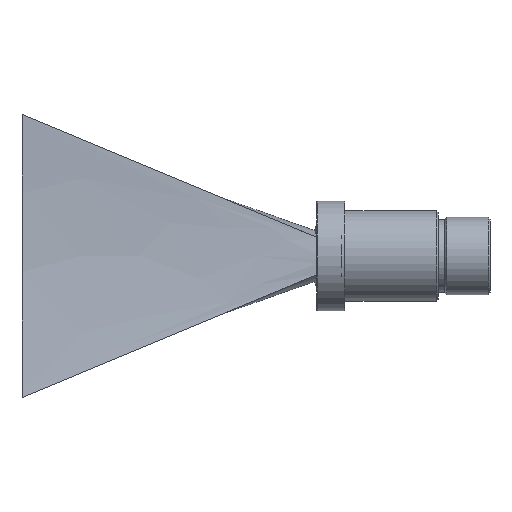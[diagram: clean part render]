
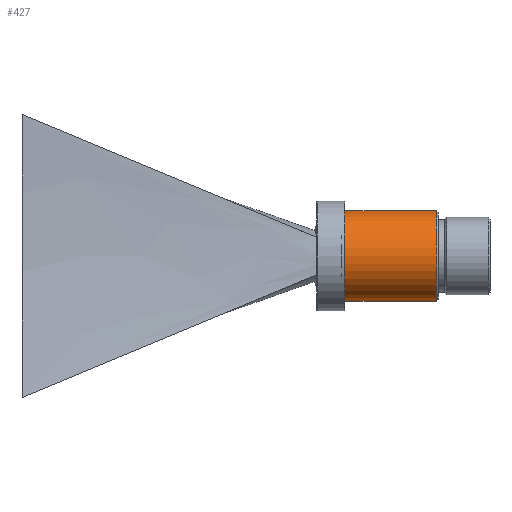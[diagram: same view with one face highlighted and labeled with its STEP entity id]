
A CAD part, front view. The second image highlights one B-rep face of the part: STEP entity #427.
In plain terms, the highlighted cylindrical face has radius 7 mm (diameter 14 mm), a full revolution.
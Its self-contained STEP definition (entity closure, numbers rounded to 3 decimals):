
#67=LINE('',#704,#90);
#90=VECTOR('',#586,7.);
#109=CYLINDRICAL_SURFACE('',#494,7.);
#125=FACE_OUTER_BOUND('',#157,.T.);
#157=EDGE_LOOP('',(#355,#356,#357,#358));
#191=CIRCLE('',#493,7.);
#192=CIRCLE('',#495,7.);
#220=VERTEX_POINT('',#700);
#221=VERTEX_POINT('',#703);
#272=EDGE_CURVE('',#220,#220,#191,.T.);
#273=EDGE_CURVE('',#220,#221,#67,.T.);
#274=EDGE_CURVE('',#221,#221,#192,.T.);
#355=ORIENTED_EDGE('',*,*,#272,.T.);
#356=ORIENTED_EDGE('',*,*,#273,.T.);
#357=ORIENTED_EDGE('',*,*,#274,.T.);
#358=ORIENTED_EDGE('',*,*,#273,.F.);
#427=ADVANCED_FACE('',(#125),#109,.T.);
#493=AXIS2_PLACEMENT_3D('',#701,#582,#583);
#494=AXIS2_PLACEMENT_3D('',#702,#584,#585);
#495=AXIS2_PLACEMENT_3D('',#705,#587,#588);
#582=DIRECTION('center_axis',(1.,0.,0.));
#583=DIRECTION('ref_axis',(0.,0.,-1.));
#584=DIRECTION('center_axis',(-1.,0.,0.));
#585=DIRECTION('ref_axis',(0.,0.,1.));
#586=DIRECTION('',(1.,0.,0.));
#587=DIRECTION('center_axis',(-1.,0.,0.));
#588=DIRECTION('ref_axis',(0.,0.,1.));
#700=CARTESIAN_POINT('',(3.922,0.,-7.));
#701=CARTESIAN_POINT('Origin',(3.922,0.,0.));
#702=CARTESIAN_POINT('Origin',(-2.357,0.,0.));
#703=CARTESIAN_POINT('',(18.553,0.,-7.));
#704=CARTESIAN_POINT('',(-2.357,0.,-7.));
#705=CARTESIAN_POINT('Origin',(18.553,0.,0.));
